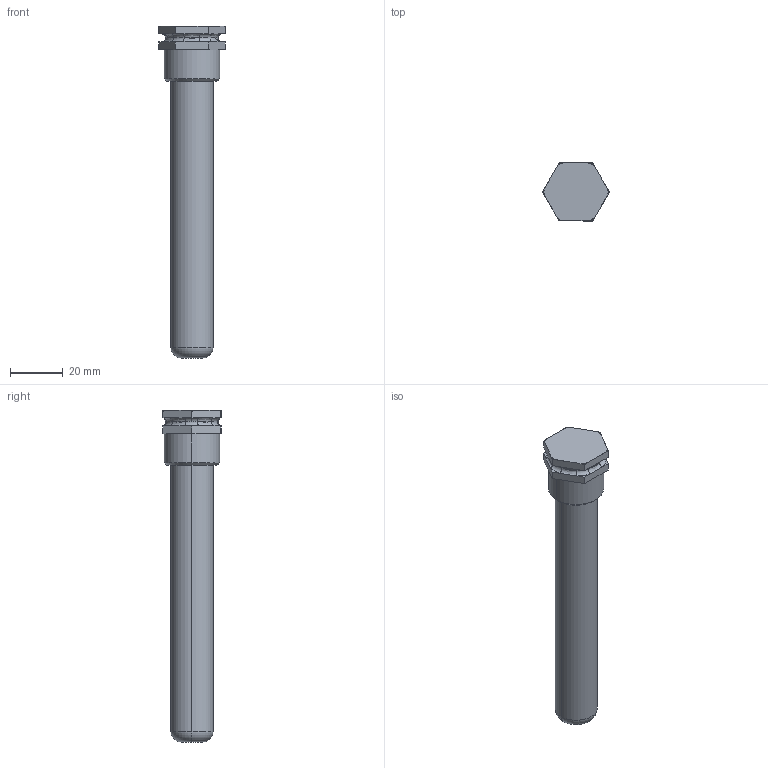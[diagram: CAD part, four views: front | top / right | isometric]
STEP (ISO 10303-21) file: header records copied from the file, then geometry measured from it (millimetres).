
FILE_DESCRIPTION (( 'STEP AP214' ), '1' );
FILE_NAME ('555035.STEP', '2022-03-15T10:54:25', ( '' ), ( '' ), 'SwSTEP 2.0', 'SolidWorks 2021', '' );
FILE_SCHEMA (( 'AUTOMOTIVE_DESIGN' ));
Length unit declared in the file: millimetre
Products named in the file (1): 555035
Bounding box: 25.4 x 22.03 x 126 mm (x, y, z)
Volume: 28578.6 mm3; surface area: 7550.5 mm2
Topology: 1 solids, 1 shells, 117 faces, 269 edges, 156 vertices
Faces by surface type: bspline 48, plane 28, cylinder 23, torus 16, cone 2
Entity records: 6886 total; most frequent: CARTESIAN_POINT 3294, ORIENTED_EDGE 538, DIRECTION 357, EDGE_CURVE 269, VERTEX_POINT 156, AXIS2_PLACEMENT_3D 139, B_SPLINE_CURVE_WITH_KNOTS 121, UNCERTAINTY_MEASURE_WITH_UNIT 120
